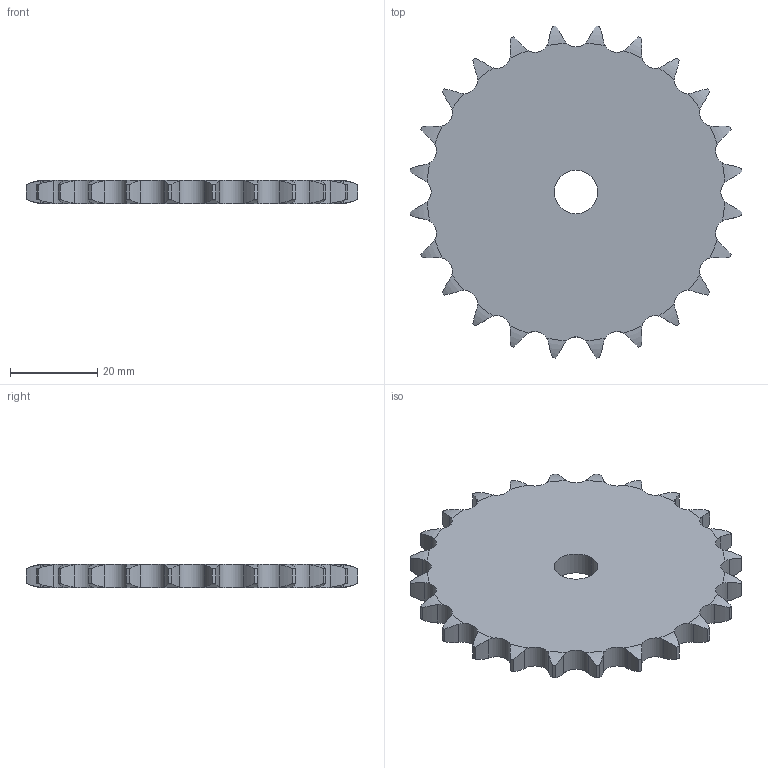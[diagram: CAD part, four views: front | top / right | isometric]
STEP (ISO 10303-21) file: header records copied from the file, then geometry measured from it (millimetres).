
FILE_DESCRIPTION((''),'2;1');
FILE_NAME('500-101-0024_PRT','2021-02-12T',('Brieden'),('Brieden'),'PRO/ENGINEER BY PARAMETRIC TECHNOLOGY CORPORATION, 2010160','PRO/ENGINEER BY PARAMETRIC TECHNOLOGY CORPORATION, 2010160','');
FILE_SCHEMA(('AUTOMOTIVE_DESIGN { 1 0 10303 214 1 1 1 1 }'));
Length unit declared in the file: millimetre
Products named in the file (1): 500-101-0024_PRT
Bounding box: 76.22 x 76.22 x 5.3 mm (x, y, z)
Volume: 20003.4 mm3; surface area: 9495.3 mm2
Topology: 1 solids, 1 shells, 148 faces, 438 edges, 292 vertices
Faces by surface type: cylinder 98, torus 48, plane 2
Entity records: 7164 total; most frequent: CARTESIAN_POINT 2051, ORIENTED_EDGE 876, DIRECTION 690, PRESENTATION_STYLE_ASSIGNMENT 439, STYLED_ITEM 439, CURVE_STYLE 438, EDGE_CURVE 438, AXIS2_PLACEMENT_3D 296
